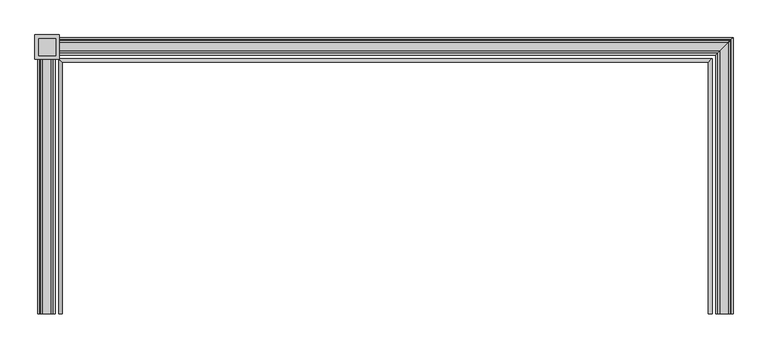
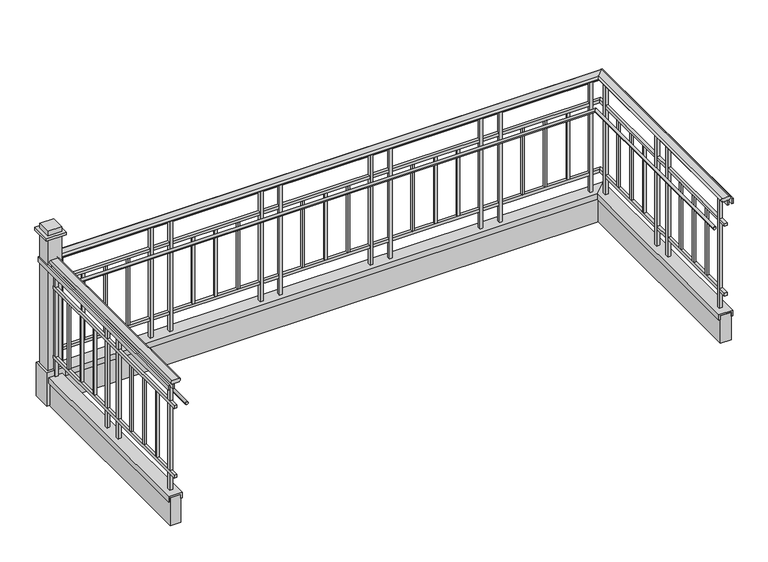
"""IFC4 building model written with IfcOpenShell, lengths in millimetres: railing geometry, Deco Type."""

from ifc_helpers import new_model, si_unit, frame, origin, place, context, project, spatial, polyline, circle_curve, ellipse_curve, outline, extrude, faceted_brep, source, transform, mapped, element, save
from ifc_brep_helpers import plane_surface, cylinder_surface, advanced_brep


def railing_c8e01f7b(model_context):
    return source(origin(), model_context, "Body", "SolidModel", [
        advanced_brep(
        [(10061.4002076, 11455.7088201, 4146.55), (10061.4002076, 11455.7088201, 4124.3248415), (10061.4002076, 11455.7088201, 4114.8), (10124.7499602, 11455.7088201, 4114.8), (10124.7499602, 11455.7088201, 4124.261629), (10124.7499602, 11455.7088201, 4146.55), (10061.4002076, 13298.9465675, 4146.55), (10061.4002076, 13298.9465675, 4124.3248415), (10061.4002076, 13298.9465675, 4114.8), (10124.7499602, 13362.2963201, 4114.8), (10124.7499602, 13362.2963201, 4124.261629), (10124.7499602, 13362.2963201, 4146.55), (5376.3872128, 13298.9465675, 4146.55), (5376.3872128, 13298.9465675, 4124.3248415), (5376.3872128, 13298.9465675, 4114.8), (5313.0374602, 13362.2963201, 4114.8), (5313.0374602, 13362.2963201, 4124.261629), (5313.0374602, 13362.2963201, 4146.55), (5376.3872128, 11455.7088201, 4146.55), (5313.0374602, 11455.7088201, 4146.55), (5313.0374602, 11455.7088201, 4124.261629), (5313.0374602, 11455.7088201, 4114.8), (5376.3872128, 11455.7088201, 4114.8), (5376.3872128, 11455.7088201, 4124.3248415)],
        [
            (0, 1, circle_curve(frame((10061.4002076, 11455.7088201, 4135.4374207), z_axis=(0.0, -1.0, 0.0), x_axis=(1.0, 0.0, 0.0)), 11.1125793)),
            (1, 2),
            (2, 3),
            (3, 4),
            (4, 5, circle_curve(frame((10124.7499602, 11455.7088201, 4135.4058145), z_axis=(0.0, -1.0, 0.0), x_axis=(1.0, 0.0, 0.0)), 11.1441855)),
            (5, 0),
            (0, 6),
            (6, 7, ellipse_curve(frame((10061.4002076, 13298.9465675, 4135.4374207), z_axis=(0.7071067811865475, -0.7071067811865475, 0.0), x_axis=(-0.7071067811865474, -0.7071067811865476, 0.0)), 15.7155603, 11.1125793)),
            (7, 1),
            (7, 8),
            (8, 2),
            (8, 9),
            (9, 3),
            (9, 10),
            (10, 4),
            (10, 11, ellipse_curve(frame((10124.7499602, 13362.2963201, 4135.4058145), z_axis=(0.7071067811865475, -0.7071067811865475, 0.0), x_axis=(-0.7071067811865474, -0.7071067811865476, 0.0)), 15.7602583, 11.1441855)),
            (11, 5),
            (11, 6),
            (6, 12),
            (12, 13, ellipse_curve(frame((5376.3872128, 13298.9465675, 4135.4374207), z_axis=(0.7071067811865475, 0.7071067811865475, 0.0), x_axis=(0.7071067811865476, -0.7071067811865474, 0.0)), 15.7155603, 11.1125793)),
            (13, 7),
            (13, 14),
            (14, 8),
            (14, 15),
            (15, 9),
            (15, 16),
            (16, 10),
            (16, 17, ellipse_curve(frame((5313.0374602, 13362.2963201, 4135.4058145), z_axis=(0.7071067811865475, 0.7071067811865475, 0.0), x_axis=(0.7071067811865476, -0.7071067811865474, 0.0)), 15.7602583, 11.1441855)),
            (17, 11),
            (17, 12),
            (18, 19),
            (19, 20, circle_curve(frame((5313.0374602, 11455.7088201, 4135.4058145), z_axis=(0.0, -1.0, 0.0), x_axis=(-1.0, 0.0, 0.0)), 11.1441855)),
            (20, 21),
            (21, 22),
            (22, 23),
            (23, 18, circle_curve(frame((5376.3872128, 11455.7088201, 4135.4374207), z_axis=(0.0, -1.0, 0.0), x_axis=(-1.0, 0.0, 0.0)), 11.1125793)),
            (12, 18),
            (23, 13),
            (22, 14),
            (21, 15),
            (20, 16),
            (19, 17),
        ],
        [
            plane_surface(frame((10092.9999602, 11455.7088201, 4114.8), z_axis=(0.0, -1.0, 0.0), x_axis=(0.0, 0.0, 1.0))),
            cylinder_surface(frame((10061.4002076, 11455.7088201, 4135.4374207), z_axis=(0.0, -1.0, 0.0), x_axis=(1.0, 0.0, 0.0)), 11.1125793),
            plane_surface(frame((10061.4002076, 11455.7088201, 4124.3248415), z_axis=(-1.0, 0.0, 0.0), x_axis=(0.0, 1.0, 0.0))),
            plane_surface(frame((10061.4002076, 11455.7088201, 4114.8), z_axis=(0.0, 0.0, -1.0), x_axis=(0.0, 1.0, 0.0))),
            plane_surface(frame((10124.7499602, 11455.7088201, 4114.8), z_axis=(1.0, 0.0, 0.0), x_axis=(0.0, 1.0, 0.0))),
            cylinder_surface(frame((10124.7499602, 11455.7088201, 4135.4058145), z_axis=(0.0, -1.0, 0.0), x_axis=(1.0, 0.0, 0.0)), 11.1441855),
            plane_surface(frame((10124.7499602, 11455.7088201, 4146.55), z_axis=(0.0, 0.0, 1.0), x_axis=(0.0, 1.0, 0.0))),
            cylinder_surface(frame((10092.9999602, 13298.9465675, 4135.4374207), z_axis=(1.0, 0.0, 0.0), x_axis=(0.0, 1.0, 0.0)), 11.1125793),
            plane_surface(frame((10061.4002076, 13298.9465675, 4124.3248415), z_axis=(0.0, -1.0, 0.0), x_axis=(-1.0, 0.0, 0.0))),
            plane_surface(frame((10061.4002076, 13298.9465675, 4114.8), z_axis=(0.0, 0.0, -1.0), x_axis=(-1.0, 0.0, 0.0))),
            plane_surface(frame((10124.7499602, 13362.2963201, 4114.8), z_axis=(0.0, 1.0, 0.0), x_axis=(-1.0, 0.0, 0.0))),
            cylinder_surface(frame((10092.9999602, 13362.2963201, 4135.4058145), z_axis=(1.0, 0.0, 0.0), x_axis=(0.0, 1.0, 0.0)), 11.1441855),
            plane_surface(frame((10124.7499602, 13362.2963201, 4146.55), z_axis=(0.0, 0.0, 1.0), x_axis=(-1.0, 0.0, 0.0))),
            plane_surface(frame((5344.7874602, 11455.7088201, 4114.8), z_axis=(0.0, -1.0, 0.0), x_axis=(0.0, 0.0, -1.0))),
            cylinder_surface(frame((5376.3872128, 13330.5463201, 4135.4374207), z_axis=(0.0, 1.0, 0.0), x_axis=(-1.0, 0.0, 0.0)), 11.1125793),
            plane_surface(frame((5376.3872128, 13298.9465675, 4124.3248415), z_axis=(1.0, 0.0, 0.0), x_axis=(0.0, -1.0, 0.0))),
            plane_surface(frame((5376.3872128, 13298.9465675, 4114.8), z_axis=(0.0, 0.0, -1.0), x_axis=(0.0, -1.0, 0.0))),
            plane_surface(frame((5313.0374602, 13362.2963201, 4114.8), z_axis=(-1.0, 0.0, 0.0), x_axis=(0.0, -1.0, 0.0))),
            cylinder_surface(frame((5313.0374602, 13330.5463201, 4135.4058145), z_axis=(0.0, 1.0, 0.0), x_axis=(-1.0, 0.0, 0.0)), 11.1441855),
            plane_surface(frame((5313.0374602, 13362.2963201, 4146.55), z_axis=(0.0, 0.0, 1.0), x_axis=(0.0, -1.0, 0.0))),
        ],
        [
            (0, [[1, 2, 3, 4, 5, 6]]),
            (1, [[-1, 7, 8, 9]]),
            (2, [[-2, -9, 10, 11]]),
            (3, [[-3, -11, 12, 13]]),
            (4, [[-4, -13, 14, 15]]),
            (5, [[-5, -15, 16, 17]]),
            (6, [[-6, -17, 18, -7]]),
            (7, [[-8, 19, 20, 21]]),
            (8, [[-10, -21, 22, 23]]),
            (9, [[-12, -23, 24, 25]]),
            (10, [[-14, -25, 26, 27]]),
            (11, [[-16, -27, 28, 29]]),
            (12, [[-18, -29, 30, -19]]),
            (13, [[31, 32, 33, 34, 35, 36]]),
            (14, [[-20, 37, -36, 38]]),
            (15, [[-22, -38, -35, 39]]),
            (16, [[-24, -39, -34, 40]]),
            (17, [[-26, -40, -33, 41]]),
            (18, [[-28, -41, -32, 42]]),
            (19, [[-30, -42, -31, -37]]),
        ],
    ),
        faceted_brep([(10118.4750839, 11455.7088201, 4114.8), (10105.7750839, 11455.7088201, 4114.8), (10105.7750839, 11455.7088201, 4070.35), (10118.4750839, 11455.7088201, 4070.35), (10118.4750839, 13356.0214438, 4114.8), (10105.7750839, 13343.3214438, 4114.8), (10105.7750839, 13343.3214438, 4070.35), (10118.4750839, 13356.0214438, 4070.35), (5319.3123365, 13356.0214438, 4114.8), (5332.0123365, 13343.3214438, 4114.8), (5332.0123365, 13343.3214438, 4070.35), (5319.3123365, 13356.0214438, 4070.35), (5319.3123365, 11455.7088201, 4114.8), (5319.3123365, 11455.7088201, 4070.35), (5332.0123365, 11455.7088201, 4070.35), (5332.0123365, 11455.7088201, 4114.8)], [[[0, 1, 2, 3]], [[1, 0, 4, 5]], [[2, 1, 5, 6]], [[3, 2, 6, 7]], [[0, 3, 7, 4]], [[5, 4, 8, 9]], [[6, 5, 9, 10]], [[7, 6, 10, 11]], [[4, 7, 11, 8]], [[12, 13, 14, 15]], [[9, 8, 12, 15]], [[10, 9, 15, 14]], [[11, 10, 14, 13]], [[8, 11, 13, 12]]]),
        faceted_brep([(10156.5750839, 11455.7088201, 4114.8), (10143.8750839, 11455.7088201, 4114.8), (10143.8750839, 11455.7088201, 4070.35), (10156.5750839, 11455.7088201, 4070.35), (10156.5750839, 13394.1214438, 4114.8), (10143.8750839, 13381.4214438, 4114.8), (10143.8750839, 13381.4214438, 4070.35), (10156.5750839, 13394.1214438, 4070.35), (5281.2123365, 13394.1214438, 4114.8), (5293.9123365, 13381.4214438, 4114.8), (5293.9123365, 13381.4214438, 4070.35), (5281.2123365, 13394.1214438, 4070.35), (5281.2123365, 11455.7088201, 4114.8), (5281.2123365, 11455.7088201, 4070.35), (5293.9123365, 11455.7088201, 4070.35), (5293.9123365, 11455.7088201, 4114.8)], [[[0, 1, 2, 3]], [[1, 0, 4, 5]], [[2, 1, 5, 6]], [[3, 2, 6, 7]], [[0, 3, 7, 4]], [[5, 4, 8, 9]], [[6, 5, 9, 10]], [[7, 6, 10, 11]], [[4, 7, 11, 8]], [[12, 13, 14, 15]], [[9, 8, 12, 15]], [[10, 9, 15, 14]], [[11, 10, 14, 13]], [[8, 11, 13, 12]]]),
        faceted_brep([(10105.6999602, 11455.7088201, 3911.6), (10080.2999602, 11455.7088201, 3911.6), (10080.2999602, 11455.7088201, 3886.2), (10105.6999602, 11455.7088201, 3886.2), (10105.6999602, 13343.2463201, 3911.6), (10080.2999602, 13317.8463201, 3911.6), (10080.2999602, 13317.8463201, 3886.2), (10105.6999602, 13343.2463201, 3886.2), (5332.0874602, 13343.2463201, 3911.6), (5357.4874602, 13317.8463201, 3911.6), (5357.4874602, 13317.8463201, 3886.2), (5332.0874602, 13343.2463201, 3886.2), (5332.0874602, 11455.7088201, 3911.6), (5332.0874602, 11455.7088201, 3886.2), (5357.4874602, 11455.7088201, 3886.2), (5357.4874602, 11455.7088201, 3911.6)], [[[0, 1, 2, 3]], [[1, 0, 4, 5]], [[2, 1, 5, 6]], [[3, 2, 6, 7]], [[0, 3, 7, 4]], [[5, 4, 8, 9]], [[6, 5, 9, 10]], [[7, 6, 10, 11]], [[4, 7, 11, 8]], [[12, 13, 14, 15]], [[9, 8, 12, 15]], [[10, 9, 15, 14]], [[11, 10, 14, 13]], [[8, 11, 13, 12]]]),
        advanced_brep(
        [(9983.4624602, 11455.7088201, 3898.9), (10008.8624602, 11455.7088201, 3898.9), (9983.4624602, 13221.0088201, 3898.9), (10008.8624602, 13246.4088201, 3898.9), (5454.3249602, 13221.0088201, 3898.9), (5428.9249602, 13246.4088201, 3898.9), (5454.3249602, 11455.7088201, 3898.9), (5428.9249602, 11455.7088201, 3898.9)],
        [
            (0, 1, circle_curve(frame((9996.1624602, 11455.7088201, 3898.9), z_axis=(0.0, -1.0, 0.0), x_axis=(1.0, 0.0, 0.0)), 12.7)),
            (1, 0, circle_curve(frame((9996.1624602, 11455.7088201, 3898.9), z_axis=(0.0, -1.0, 0.0), x_axis=(1.0, 0.0, 0.0)), 12.7)),
            (0, 2),
            (2, 3, ellipse_curve(frame((9996.1624602, 13233.7088201, 3898.9), z_axis=(0.7071067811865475, -0.7071067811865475, 0.0), x_axis=(-0.7071067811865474, -0.7071067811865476, 0.0)), 17.9605122, 12.7)),
            (3, 1),
            (3, 2, ellipse_curve(frame((9996.1624602, 13233.7088201, 3898.9), z_axis=(0.7071067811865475, -0.7071067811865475, 0.0), x_axis=(-0.7071067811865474, -0.7071067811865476, 0.0)), 17.9605122, 12.7)),
            (2, 4),
            (4, 5, ellipse_curve(frame((5441.6249602, 13233.7088201, 3898.9), z_axis=(0.7071067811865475, 0.7071067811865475, 0.0), x_axis=(0.7071067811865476, -0.7071067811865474, 0.0)), 17.9605122, 12.7)),
            (5, 3),
            (5, 4, ellipse_curve(frame((5441.6249602, 13233.7088201, 3898.9), z_axis=(0.7071067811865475, 0.7071067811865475, 0.0), x_axis=(0.7071067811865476, -0.7071067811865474, 0.0)), 17.9605122, 12.7)),
            (6, 7, circle_curve(frame((5441.6249602, 11455.7088201, 3898.9), z_axis=(0.0, -1.0, 0.0), x_axis=(-1.0, 0.0, 0.0)), 12.7)),
            (7, 6, circle_curve(frame((5441.6249602, 11455.7088201, 3898.9), z_axis=(0.0, -1.0, 0.0), x_axis=(-1.0, 0.0, 0.0)), 12.7)),
            (4, 6),
            (7, 5),
        ],
        [
            plane_surface(frame((9996.1624602, 11455.7088201, 3898.9), z_axis=(0.0, -1.0, 0.0), x_axis=(0.0, 0.0, 1.0))),
            cylinder_surface(frame((9996.1624602, 11455.7088201, 3898.9), z_axis=(0.0, -1.0, 0.0), x_axis=(1.0, 0.0, 0.0)), 12.7),
            cylinder_surface(frame((9996.1624602, 13233.7088201, 3898.9), z_axis=(1.0, 0.0, 0.0), x_axis=(0.0, 1.0, 0.0)), 12.7),
            plane_surface(frame((5441.6249602, 11455.7088201, 3898.9), z_axis=(0.0, -1.0, 0.0), x_axis=(0.0, 0.0, -1.0))),
            cylinder_surface(frame((5441.6249602, 13233.7088201, 3898.9), z_axis=(0.0, 1.0, 0.0), x_axis=(-1.0, 0.0, 0.0)), 12.7),
        ],
        [
            (0, [[1, 2]]),
            (1, [[-1, 3, 4, 5]]),
            (1, [[-2, -5, 6, -3]]),
            (2, [[-4, 7, 8, 9]]),
            (2, [[-6, -9, 10, -7]]),
            (3, [[11, 12]]),
            (4, [[-8, 13, -12, 14]]),
            (4, [[-10, -14, -11, -13]]),
        ],
    ),
        faceted_brep([(10105.6999602, 11455.7088201, 3276.6), (10080.2999602, 11455.7088201, 3276.6), (10080.2999602, 11455.7088201, 3251.2), (10105.6999602, 11455.7088201, 3251.2), (10105.6999602, 13343.2463201, 3276.6), (10080.2999602, 13317.8463201, 3276.6), (10080.2999602, 13317.8463201, 3251.2), (10105.6999602, 13343.2463201, 3251.2), (5332.0874602, 13343.2463201, 3276.6), (5357.4874602, 13317.8463201, 3276.6), (5357.4874602, 13317.8463201, 3251.2), (5332.0874602, 13343.2463201, 3251.2), (5332.0874602, 11455.7088201, 3276.6), (5332.0874602, 11455.7088201, 3251.2), (5357.4874602, 11455.7088201, 3251.2), (5357.4874602, 11455.7088201, 3276.6)], [[[0, 1, 2, 3]], [[1, 0, 4, 5]], [[2, 1, 5, 6]], [[3, 2, 6, 7]], [[0, 3, 7, 4]], [[5, 4, 8, 9]], [[6, 5, 9, 10]], [[7, 6, 10, 11]], [[4, 7, 11, 8]], [[12, 13, 14, 15]], [[9, 8, 12, 15]], [[10, 9, 15, 14]], [[11, 10, 14, 13]], [[8, 11, 13, 12]]]),
        faceted_brep([(10034.3375839, 11455.7088201, 3097.0362864), (10034.3375839, 11455.7088201, 3048.0), (10047.0375839, 11455.7088201, 3048.0), (10047.0375839, 11455.7088201, 3084.3362864), (10139.1125839, 11455.7088201, 3084.3362864), (10139.1125839, 11455.7088201, 3048.0), (10151.8125839, 11455.7088201, 3048.0), (10151.8125839, 11455.7088201, 3097.0362864), (10034.3375839, 13271.8839438, 3097.0362864), (10034.3375839, 13271.8839438, 3048.0), (10047.0375839, 13284.5839438, 3048.0), (10047.0375839, 13284.5839438, 3084.3362864), (10139.1125839, 13376.6589438, 3084.3362864), (10139.1125839, 13376.6589438, 3048.0), (10151.8125839, 13389.3589438, 3048.0), (10151.8125839, 13389.3589438, 3097.0362864), (5403.4498365, 13271.8839438, 3097.0362864), (5403.4498365, 13271.8839438, 3048.0), (5390.7498365, 13284.5839438, 3048.0), (5390.7498365, 13284.5839438, 3084.3362864), (5298.6748365, 13376.6589438, 3084.3362864), (5298.6748365, 13376.6589438, 3048.0), (5285.9748365, 13389.3589438, 3048.0), (5285.9748365, 13389.3589438, 3097.0362864), (5403.4498365, 11455.7088201, 3097.0362864), (5285.9748365, 11455.7088201, 3097.0362864), (5285.9748365, 11455.7088201, 3048.0), (5298.6748365, 11455.7088201, 3048.0), (5298.6748365, 11455.7088201, 3084.3362864), (5390.7498365, 11455.7088201, 3084.3362864), (5390.7498365, 11455.7088201, 3048.0), (5403.4498365, 11455.7088201, 3048.0)], [[[0, 1, 2, 3, 4, 5, 6, 7]], [[1, 0, 8, 9]], [[2, 1, 9, 10]], [[3, 2, 10, 11]], [[4, 3, 11, 12]], [[5, 4, 12, 13]], [[6, 5, 13, 14]], [[7, 6, 14, 15]], [[0, 7, 15, 8]], [[9, 8, 16, 17]], [[10, 9, 17, 18]], [[11, 10, 18, 19]], [[12, 11, 19, 20]], [[13, 12, 20, 21]], [[14, 13, 21, 22]], [[15, 14, 22, 23]], [[8, 15, 23, 16]], [[24, 25, 26, 27, 28, 29, 30, 31]], [[17, 16, 24, 31]], [[18, 17, 31, 30]], [[19, 18, 30, 29]], [[20, 19, 29, 28]], [[21, 20, 28, 27]], [[22, 21, 27, 26]], [[23, 22, 26, 25]], [[16, 23, 25, 24]]]),
        faceted_brep([(10047.0375839, 11455.7088201, 3084.3362864), (10047.0375839, 11455.7088201, 2830.3362864), (10139.1125839, 11455.7088201, 2830.3362864), (10139.1125839, 11455.7088201, 3084.3362864), (10047.0375839, 13284.5839438, 3084.3362864), (10047.0375839, 13284.5839438, 2830.3362864), (10139.1125839, 13376.6589438, 2830.3362864), (10139.1125839, 13376.6589438, 3084.3362864), (5390.7498365, 13284.5839438, 3084.3362864), (5390.7498365, 13284.5839438, 2830.3362864), (5298.6748365, 13376.6589438, 2830.3362864), (5298.6748365, 13376.6589438, 3084.3362864), (5390.7498365, 11455.7088201, 3084.3362864), (5298.6748365, 11455.7088201, 3084.3362864), (5298.6748365, 11455.7088201, 2830.3362864), (5390.7498365, 11455.7088201, 2830.3362864)], [[[0, 1, 2, 3]], [[1, 0, 4, 5]], [[2, 1, 5, 6]], [[3, 2, 6, 7]], [[0, 3, 7, 4]], [[5, 4, 8, 9]], [[6, 5, 9, 10]], [[7, 6, 10, 11]], [[4, 7, 11, 8]], [[12, 13, 14, 15]], [[9, 8, 12, 15]], [[10, 9, 15, 14]], [[11, 10, 14, 13]], [[8, 11, 13, 12]]]),
        extrude(outline(polyline([(5334.8655852, 11550.9996749), (5360.2655852, 11550.9996749), (5360.2655852, 11525.5996749), (5334.8655852, 11525.5996749), (5334.8655852, 11550.9996749)])), frame((0.0, 0.0, 3097.0362864), z_axis=(0.0, 0.0, 1.0), x_axis=(1.0, 0.0, 0.0)), (0.0, 0.0, 1.0), 1017.7637136),
        extrude(outline(polyline([(5338.0405852, 11740.5366693), (5357.0905852, 11740.5366693), (5357.0905852, 11721.4866693), (5338.0405852, 11721.4866693), (5338.0405852, 11740.5366693)])), frame((0.0, 0.0, 3276.6), z_axis=(0.0, 0.0, 1.0), x_axis=(1.0, 0.0, 0.0)), (0.0, 0.0, 1.0), 609.6),
        extrude(outline(polyline([(5338.0405852, 11933.2486638), (5357.0905852, 11933.2486638), (5357.0905852, 11914.1986638), (5338.0405852, 11914.1986638), (5338.0405852, 11933.2486638)])), frame((0.0, 0.0, 3276.6), z_axis=(0.0, 0.0, 1.0), x_axis=(1.0, 0.0, 0.0)), (0.0, 0.0, 1.0), 609.6),
        extrude(outline(polyline([(5338.0405852, 12125.9606583), (5357.0905852, 12125.9606583), (5357.0905852, 12106.9106583), (5338.0405852, 12106.9106583), (5338.0405852, 12125.9606583)])), frame((0.0, 0.0, 3276.6), z_axis=(0.0, 0.0, 1.0), x_axis=(1.0, 0.0, 0.0)), (0.0, 0.0, 1.0), 609.6),
        extrude(outline(polyline([(5334.8655852, 12321.8476528), (5360.2655852, 12321.8476528), (5360.2655852, 12296.4476528), (5334.8655852, 12296.4476528), (5334.8655852, 12321.8476528)])), frame((0.0, 0.0, 3097.0362864), z_axis=(0.0, 0.0, 1.0), x_axis=(1.0, 0.0, 0.0)), (0.0, 0.0, 1.0), 1017.7637136),
        extrude(outline(polyline([(5334.8655852, 12487.0293624), (5360.2655852, 12487.0293624), (5360.2655852, 12461.6293624), (5334.8655852, 12461.6293624), (5334.8655852, 12487.0293624)])), frame((0.0, 0.0, 3097.0362864), z_axis=(0.0, 0.0, 1.0), x_axis=(1.0, 0.0, 0.0)), (0.0, 0.0, 1.0), 1017.7637136),
        extrude(outline(polyline([(5338.0405852, 12676.5663568), (5357.0905852, 12676.5663568), (5357.0905852, 12657.5163568), (5338.0405852, 12657.5163568), (5338.0405852, 12676.5663568)])), frame((0.0, 0.0, 3276.6), z_axis=(0.0, 0.0, 1.0), x_axis=(1.0, 0.0, 0.0)), (0.0, 0.0, 1.0), 609.6),
        extrude(outline(polyline([(5338.0405852, 12869.2783513), (5357.0905852, 12869.2783513), (5357.0905852, 12850.2283513), (5338.0405852, 12850.2283513), (5338.0405852, 12869.2783513)])), frame((0.0, 0.0, 3276.6), z_axis=(0.0, 0.0, 1.0), x_axis=(1.0, 0.0, 0.0)), (0.0, 0.0, 1.0), 609.6),
        extrude(outline(polyline([(5338.0405852, 13061.9903458), (5357.0905852, 13061.9903458), (5357.0905852, 13042.9403458), (5338.0405852, 13042.9403458), (5338.0405852, 13061.9903458)])), frame((0.0, 0.0, 3276.6), z_axis=(0.0, 0.0, 1.0), x_axis=(1.0, 0.0, 0.0)), (0.0, 0.0, 1.0), 609.6),
        extrude(outline(polyline([(5334.8655852, 13257.8773403), (5360.2655852, 13257.8773403), (5360.2655852, 13232.4773403), (5334.8655852, 13232.4773403), (5334.8655852, 13257.8773403)])), frame((0.0, 0.0, 3097.0362864), z_axis=(0.0, 0.0, 1.0), x_axis=(1.0, 0.0, 0.0)), (0.0, 0.0, 1.0), 1017.7637136),
        extrude(outline(polyline([(5443.959519, 13340.4681951), (5443.959519, 13315.0681951), (5418.559519, 13315.0681951), (5418.559519, 13340.4681951), (5443.959519, 13340.4681951)])), frame((0.0, 0.0, 3097.0362864), z_axis=(0.0, 0.0, 1.0), x_axis=(1.0, 0.0, 0.0)), (0.0, 0.0, 1.0), 1017.7637136),
        extrude(outline(polyline([(5636.0703646, 13337.2931951), (5636.0703646, 13318.2431951), (5617.0203646, 13318.2431951), (5617.0203646, 13337.2931951), (5636.0703646, 13337.2931951)])), frame((0.0, 0.0, 3276.6), z_axis=(0.0, 0.0, 1.0), x_axis=(1.0, 0.0, 0.0)), (0.0, 0.0, 1.0), 609.6),
        extrude(outline(polyline([(5831.3562102, 13337.2931951), (5831.3562102, 13318.2431951), (5812.3062102, 13318.2431951), (5812.3062102, 13337.2931951), (5831.3562102, 13337.2931951)])), frame((0.0, 0.0, 3276.6), z_axis=(0.0, 0.0, 1.0), x_axis=(1.0, 0.0, 0.0)), (0.0, 0.0, 1.0), 609.6),
        extrude(outline(polyline([(6026.6420558, 13337.2931951), (6026.6420558, 13318.2431951), (6007.5920558, 13318.2431951), (6007.5920558, 13337.2931951), (6026.6420558, 13337.2931951)])), frame((0.0, 0.0, 3276.6), z_axis=(0.0, 0.0, 1.0), x_axis=(1.0, 0.0, 0.0)), (0.0, 0.0, 1.0), 609.6),
        extrude(outline(polyline([(6225.1029014, 13340.4681951), (6225.1029014, 13315.0681951), (6199.7029014, 13315.0681951), (6199.7029014, 13340.4681951), (6225.1029014, 13340.4681951)])), frame((0.0, 0.0, 3097.0362864), z_axis=(0.0, 0.0, 1.0), x_axis=(1.0, 0.0, 0.0)), (0.0, 0.0, 1.0), 1017.7637136),
        extrude(outline(polyline([(6392.490769, 13340.4681951), (6392.490769, 13315.0681951), (6367.090769, 13315.0681951), (6367.090769, 13340.4681951), (6392.490769, 13340.4681951)])), frame((0.0, 0.0, 3097.0362864), z_axis=(0.0, 0.0, 1.0), x_axis=(1.0, 0.0, 0.0)), (0.0, 0.0, 1.0), 1017.7637136),
        extrude(outline(polyline([(6584.6016146, 13337.2931951), (6584.6016146, 13318.2431951), (6565.5516146, 13318.2431951), (6565.5516146, 13337.2931951), (6584.6016146, 13337.2931951)])), frame((0.0, 0.0, 3276.6), z_axis=(0.0, 0.0, 1.0), x_axis=(1.0, 0.0, 0.0)), (0.0, 0.0, 1.0), 609.6),
        extrude(outline(polyline([(6779.8874602, 13337.2931951), (6779.8874602, 13318.2431951), (6760.8374602, 13318.2431951), (6760.8374602, 13337.2931951), (6779.8874602, 13337.2931951)])), frame((0.0, 0.0, 3276.6), z_axis=(0.0, 0.0, 1.0), x_axis=(1.0, 0.0, 0.0)), (0.0, 0.0, 1.0), 609.6),
        extrude(outline(polyline([(6975.1733058, 13337.2931951), (6975.1733058, 13318.2431951), (6956.1233058, 13318.2431951), (6956.1233058, 13337.2931951), (6975.1733058, 13337.2931951)])), frame((0.0, 0.0, 3276.6), z_axis=(0.0, 0.0, 1.0), x_axis=(1.0, 0.0, 0.0)), (0.0, 0.0, 1.0), 609.6),
        extrude(outline(polyline([(7173.6341514, 13340.4681951), (7173.6341514, 13315.0681951), (7148.2341514, 13315.0681951), (7148.2341514, 13340.4681951), (7173.6341514, 13340.4681951)])), frame((0.0, 0.0, 3097.0362864), z_axis=(0.0, 0.0, 1.0), x_axis=(1.0, 0.0, 0.0)), (0.0, 0.0, 1.0), 1017.7637136),
        extrude(outline(polyline([(7341.022019, 13340.4681951), (7341.022019, 13315.0681951), (7315.622019, 13315.0681951), (7315.622019, 13340.4681951), (7341.022019, 13340.4681951)])), frame((0.0, 0.0, 3097.0362864), z_axis=(0.0, 0.0, 1.0), x_axis=(1.0, 0.0, 0.0)), (0.0, 0.0, 1.0), 1017.7637136),
        extrude(outline(polyline([(7533.1328646, 13337.2931951), (7533.1328646, 13318.2431951), (7514.0828646, 13318.2431951), (7514.0828646, 13337.2931951), (7533.1328646, 13337.2931951)])), frame((0.0, 0.0, 3276.6), z_axis=(0.0, 0.0, 1.0), x_axis=(1.0, 0.0, 0.0)), (0.0, 0.0, 1.0), 609.6),
        extrude(outline(polyline([(7728.4187102, 13337.2931951), (7728.4187102, 13318.2431951), (7709.3687102, 13318.2431951), (7709.3687102, 13337.2931951), (7728.4187102, 13337.2931951)])), frame((0.0, 0.0, 3276.6), z_axis=(0.0, 0.0, 1.0), x_axis=(1.0, 0.0, 0.0)), (0.0, 0.0, 1.0), 609.6),
        extrude(outline(polyline([(7923.7045558, 13337.2931951), (7923.7045558, 13318.2431951), (7904.6545558, 13318.2431951), (7904.6545558, 13337.2931951), (7923.7045558, 13337.2931951)])), frame((0.0, 0.0, 3276.6), z_axis=(0.0, 0.0, 1.0), x_axis=(1.0, 0.0, 0.0)), (0.0, 0.0, 1.0), 609.6),
        extrude(outline(polyline([(8122.1654014, 13340.4681951), (8122.1654014, 13315.0681951), (8096.7654014, 13315.0681951), (8096.7654014, 13340.4681951), (8122.1654014, 13340.4681951)])), frame((0.0, 0.0, 3097.0362864), z_axis=(0.0, 0.0, 1.0), x_axis=(1.0, 0.0, 0.0)), (0.0, 0.0, 1.0), 1017.7637136),
        extrude(outline(polyline([(8289.553269, 13340.4681951), (8289.553269, 13315.0681951), (8264.153269, 13315.0681951), (8264.153269, 13340.4681951), (8289.553269, 13340.4681951)])), frame((0.0, 0.0, 3097.0362864), z_axis=(0.0, 0.0, 1.0), x_axis=(1.0, 0.0, 0.0)), (0.0, 0.0, 1.0), 1017.7637136),
        extrude(outline(polyline([(8481.6641146, 13337.2931951), (8481.6641146, 13318.2431951), (8462.6141146, 13318.2431951), (8462.6141146, 13337.2931951), (8481.6641146, 13337.2931951)])), frame((0.0, 0.0, 3276.6), z_axis=(0.0, 0.0, 1.0), x_axis=(1.0, 0.0, 0.0)), (0.0, 0.0, 1.0), 609.6),
        extrude(outline(polyline([(8676.9499602, 13337.2931951), (8676.9499602, 13318.2431951), (8657.8999602, 13318.2431951), (8657.8999602, 13337.2931951), (8676.9499602, 13337.2931951)])), frame((0.0, 0.0, 3276.6), z_axis=(0.0, 0.0, 1.0), x_axis=(1.0, 0.0, 0.0)), (0.0, 0.0, 1.0), 609.6),
        extrude(outline(polyline([(8872.2358058, 13337.2931951), (8872.2358058, 13318.2431951), (8853.1858058, 13318.2431951), (8853.1858058, 13337.2931951), (8872.2358058, 13337.2931951)])), frame((0.0, 0.0, 3276.6), z_axis=(0.0, 0.0, 1.0), x_axis=(1.0, 0.0, 0.0)), (0.0, 0.0, 1.0), 609.6),
        extrude(outline(polyline([(9070.6966514, 13340.4681951), (9070.6966514, 13315.0681951), (9045.2966514, 13315.0681951), (9045.2966514, 13340.4681951), (9070.6966514, 13340.4681951)])), frame((0.0, 0.0, 3097.0362864), z_axis=(0.0, 0.0, 1.0), x_axis=(1.0, 0.0, 0.0)), (0.0, 0.0, 1.0), 1017.7637136),
        extrude(outline(polyline([(9238.084519, 13340.4681951), (9238.084519, 13315.0681951), (9212.684519, 13315.0681951), (9212.684519, 13340.4681951), (9238.084519, 13340.4681951)])), frame((0.0, 0.0, 3097.0362864), z_axis=(0.0, 0.0, 1.0), x_axis=(1.0, 0.0, 0.0)), (0.0, 0.0, 1.0), 1017.7637136),
        extrude(outline(polyline([(9430.1953646, 13337.2931951), (9430.1953646, 13318.2431951), (9411.1453646, 13318.2431951), (9411.1453646, 13337.2931951), (9430.1953646, 13337.2931951)])), frame((0.0, 0.0, 3276.6), z_axis=(0.0, 0.0, 1.0), x_axis=(1.0, 0.0, 0.0)), (0.0, 0.0, 1.0), 609.6),
        extrude(outline(polyline([(9625.4812102, 13337.2931951), (9625.4812102, 13318.2431951), (9606.4312102, 13318.2431951), (9606.4312102, 13337.2931951), (9625.4812102, 13337.2931951)])), frame((0.0, 0.0, 3276.6), z_axis=(0.0, 0.0, 1.0), x_axis=(1.0, 0.0, 0.0)), (0.0, 0.0, 1.0), 609.6),
        extrude(outline(polyline([(9820.7670558, 13337.2931951), (9820.7670558, 13318.2431951), (9801.7170558, 13318.2431951), (9801.7170558, 13337.2931951), (9820.7670558, 13337.2931951)])), frame((0.0, 0.0, 3276.6), z_axis=(0.0, 0.0, 1.0), x_axis=(1.0, 0.0, 0.0)), (0.0, 0.0, 1.0), 609.6),
        extrude(outline(polyline([(10019.2279014, 13340.4681951), (10019.2279014, 13315.0681951), (9993.8279014, 13315.0681951), (9993.8279014, 13340.4681951), (10019.2279014, 13340.4681951)])), frame((0.0, 0.0, 3097.0362864), z_axis=(0.0, 0.0, 1.0), x_axis=(1.0, 0.0, 0.0)), (0.0, 0.0, 1.0), 1017.7637136),
        extrude(outline(polyline([(10102.9218352, 13232.4773403), (10077.5218352, 13232.4773403), (10077.5218352, 13257.8773403), (10102.9218352, 13257.8773403), (10102.9218352, 13232.4773403)])), frame((0.0, 0.0, 3097.0362864), z_axis=(0.0, 0.0, 1.0), x_axis=(1.0, 0.0, 0.0)), (0.0, 0.0, 1.0), 1017.7637136),
        extrude(outline(polyline([(10099.7468352, 13042.9403458), (10080.6968352, 13042.9403458), (10080.6968352, 13061.9903458), (10099.7468352, 13061.9903458), (10099.7468352, 13042.9403458)])), frame((0.0, 0.0, 3276.6), z_axis=(0.0, 0.0, 1.0), x_axis=(1.0, 0.0, 0.0)), (0.0, 0.0, 1.0), 609.6),
        extrude(outline(polyline([(10099.7468352, 12850.2283513), (10080.6968352, 12850.2283513), (10080.6968352, 12869.2783513), (10099.7468352, 12869.2783513), (10099.7468352, 12850.2283513)])), frame((0.0, 0.0, 3276.6), z_axis=(0.0, 0.0, 1.0), x_axis=(1.0, 0.0, 0.0)), (0.0, 0.0, 1.0), 609.6),
        extrude(outline(polyline([(10099.7468352, 12657.5163568), (10080.6968352, 12657.5163568), (10080.6968352, 12676.5663568), (10099.7468352, 12676.5663568), (10099.7468352, 12657.5163568)])), frame((0.0, 0.0, 3276.6), z_axis=(0.0, 0.0, 1.0), x_axis=(1.0, 0.0, 0.0)), (0.0, 0.0, 1.0), 609.6),
        extrude(outline(polyline([(10102.9218352, 12461.6293624), (10077.5218352, 12461.6293624), (10077.5218352, 12487.0293624), (10102.9218352, 12487.0293624), (10102.9218352, 12461.6293624)])), frame((0.0, 0.0, 3097.0362864), z_axis=(0.0, 0.0, 1.0), x_axis=(1.0, 0.0, 0.0)), (0.0, 0.0, 1.0), 1017.7637136),
        extrude(outline(polyline([(10102.9218352, 12296.4476528), (10077.5218352, 12296.4476528), (10077.5218352, 12321.8476528), (10102.9218352, 12321.8476528), (10102.9218352, 12296.4476528)])), frame((0.0, 0.0, 3097.0362864), z_axis=(0.0, 0.0, 1.0), x_axis=(1.0, 0.0, 0.0)), (0.0, 0.0, 1.0), 1017.7637136),
        extrude(outline(polyline([(10099.7468352, 12106.9106583), (10080.6968352, 12106.9106583), (10080.6968352, 12125.9606583), (10099.7468352, 12125.9606583), (10099.7468352, 12106.9106583)])), frame((0.0, 0.0, 3276.6), z_axis=(0.0, 0.0, 1.0), x_axis=(1.0, 0.0, 0.0)), (0.0, 0.0, 1.0), 609.6),
        extrude(outline(polyline([(10099.7468352, 11914.1986638), (10080.6968352, 11914.1986638), (10080.6968352, 11933.2486638), (10099.7468352, 11933.2486638), (10099.7468352, 11914.1986638)])), frame((0.0, 0.0, 3276.6), z_axis=(0.0, 0.0, 1.0), x_axis=(1.0, 0.0, 0.0)), (0.0, 0.0, 1.0), 609.6),
        extrude(outline(polyline([(10099.7468352, 11721.4866693), (10080.6968352, 11721.4866693), (10080.6968352, 11740.5366693), (10099.7468352, 11740.5366693), (10099.7468352, 11721.4866693)])), frame((0.0, 0.0, 3276.6), z_axis=(0.0, 0.0, 1.0), x_axis=(1.0, 0.0, 0.0)), (0.0, 0.0, 1.0), 609.6),
        extrude(outline(polyline([(10102.9218352, 11525.5996749), (10077.5218352, 11525.5996749), (10077.5218352, 11550.9996749), (10102.9218352, 11550.9996749), (10102.9218352, 11525.5996749)])), frame((0.0, 0.0, 3097.0362864), z_axis=(0.0, 0.0, 1.0), x_axis=(1.0, 0.0, 0.0)), (0.0, 0.0, 1.0), 1017.7637136),
        extrude(outline(polyline([(5426.9405852, 13248.3931951), (5268.1905852, 13248.3931951), (5268.1905852, 13407.1431951), (5426.9405852, 13407.1431951), (5426.9405852, 13248.3931951)])), frame((0.0, 0.0, 2844.8), z_axis=(0.0, 0.0, 1.0), x_axis=(1.0, 0.0, 0.0)), (0.0, 0.0, 1.0), 304.8),
        extrude(outline(polyline([(5407.8905852, 13267.4431951), (5287.2405852, 13267.4431951), (5287.2405852, 13388.0931951), (5407.8905852, 13388.0931951), (5407.8905852, 13267.4431951)])), frame((0.0, 0.0, 3149.6), z_axis=(0.0, 0.0, 1.0), x_axis=(1.0, 0.0, 0.0)), (0.0, 0.0, 1.0), 1270.0),
        extrude(outline(polyline([(5433.2905852, 13413.4931951), (5433.2905852, 13242.0431951), (5261.8405852, 13242.0431951), (5261.8405852, 13413.4931951), (5433.2905852, 13413.4931951)]), holes=[polyline([(5287.2405852, 13388.0931951), (5287.2405852, 13267.4431951), (5407.8905852, 13267.4431951), (5407.8905852, 13388.0931951), (5287.2405852, 13388.0931951)])]), frame((0.0, 0.0, 4352.925), z_axis=(0.0, 0.0, 1.0), x_axis=(1.0, 0.0, 0.0)), (0.0, 0.0, 1.0), 25.4),
    ])


if __name__ == "__main__":
    model = new_model("IFC4")
    model_context = context("Model", 3, world=origin())
    ifc_project = project(units=[si_unit("LENGTHUNIT", "METRE", prefix="MILLI")], contexts=[model_context])
    site = spatial("IfcSite", under=ifc_project)
    building = spatial("IfcBuilding", under=site)
    placement = place(None, origin())
    railing_shape = railing_c8e01f7b(model_context)
    element("IfcRailing", 1, ObjectType="Deco Type", at=placement, inside=building, context=model_context, shape_type="MappedRepresentation", body=[
        mapped(railing_shape, transform((0.0, 0.0, 0.0), x_axis=(1.0, 0.0, 0.0), y_axis=(0.0, 1.0, 0.0), z_axis=(0.0, 0.0, 1.0))),
    ])
    save(model, "model.ifc")
